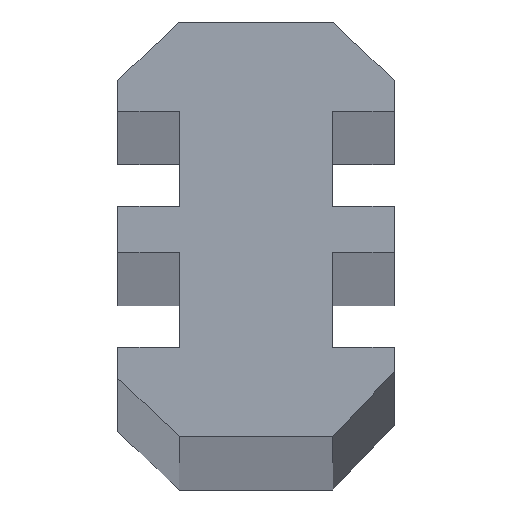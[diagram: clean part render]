
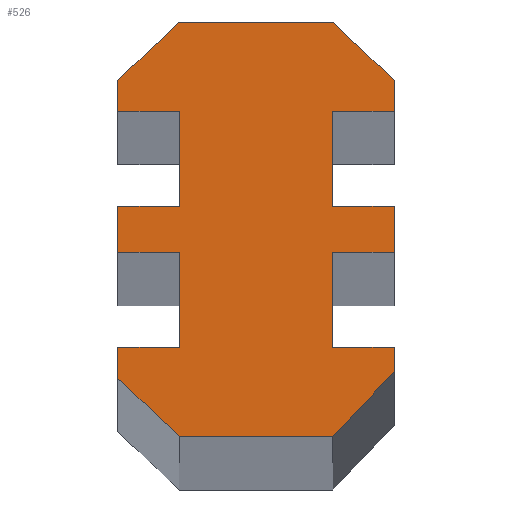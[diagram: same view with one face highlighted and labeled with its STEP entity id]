
A CAD part, top view. The second image highlights one B-rep face of the part: STEP entity #526.
In plain terms, the highlighted planar face has unit normal (0, 0, 1).
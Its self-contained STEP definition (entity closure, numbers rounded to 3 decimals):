
#40=FACE_OUTER_BOUND('',#66,.T.);
#66=EDGE_LOOP('',(#451,#452,#453,#454,#455,#456,#457,#458,#459,#460,#461,
#462,#463,#464,#465,#466,#467,#468,#469,#470,#471,#472,#473,#474));
#92=LINE('',#753,#164);
#94=LINE('',#757,#166);
#96=LINE('',#761,#168);
#98=LINE('',#765,#170);
#100=LINE('',#769,#172);
#102=LINE('',#773,#174);
#104=LINE('',#777,#176);
#106=LINE('',#781,#178);
#108=LINE('',#785,#180);
#110=LINE('',#789,#182);
#112=LINE('',#793,#184);
#114=LINE('',#797,#186);
#116=LINE('',#801,#188);
#118=LINE('',#805,#190);
#120=LINE('',#809,#192);
#122=LINE('',#813,#194);
#124=LINE('',#817,#196);
#126=LINE('',#821,#198);
#128=LINE('',#825,#200);
#130=LINE('',#829,#202);
#132=LINE('',#833,#204);
#134=LINE('',#837,#206);
#136=LINE('',#841,#208);
#138=LINE('',#844,#210);
#164=VECTOR('',#604,10.);
#166=VECTOR('',#608,10.);
#168=VECTOR('',#612,10.);
#170=VECTOR('',#616,10.);
#172=VECTOR('',#620,10.);
#174=VECTOR('',#624,10.);
#176=VECTOR('',#628,10.);
#178=VECTOR('',#632,10.);
#180=VECTOR('',#636,10.);
#182=VECTOR('',#640,10.);
#184=VECTOR('',#644,10.);
#186=VECTOR('',#648,10.);
#188=VECTOR('',#652,10.);
#190=VECTOR('',#656,10.);
#192=VECTOR('',#660,10.);
#194=VECTOR('',#664,10.);
#196=VECTOR('',#668,10.);
#198=VECTOR('',#672,10.);
#200=VECTOR('',#676,10.);
#202=VECTOR('',#680,10.);
#204=VECTOR('',#684,10.);
#206=VECTOR('',#688,10.);
#208=VECTOR('',#692,10.);
#210=VECTOR('',#696,10.);
#235=VERTEX_POINT('',#750);
#236=VERTEX_POINT('',#752);
#237=VERTEX_POINT('',#756);
#238=VERTEX_POINT('',#760);
#239=VERTEX_POINT('',#764);
#240=VERTEX_POINT('',#768);
#241=VERTEX_POINT('',#772);
#242=VERTEX_POINT('',#776);
#243=VERTEX_POINT('',#780);
#244=VERTEX_POINT('',#784);
#245=VERTEX_POINT('',#788);
#246=VERTEX_POINT('',#792);
#247=VERTEX_POINT('',#796);
#248=VERTEX_POINT('',#800);
#249=VERTEX_POINT('',#804);
#250=VERTEX_POINT('',#808);
#251=VERTEX_POINT('',#812);
#252=VERTEX_POINT('',#816);
#253=VERTEX_POINT('',#820);
#254=VERTEX_POINT('',#824);
#255=VERTEX_POINT('',#828);
#256=VERTEX_POINT('',#832);
#257=VERTEX_POINT('',#836);
#258=VERTEX_POINT('',#840);
#284=EDGE_CURVE('',#236,#235,#92,.T.);
#286=EDGE_CURVE('',#237,#236,#94,.T.);
#288=EDGE_CURVE('',#238,#237,#96,.T.);
#290=EDGE_CURVE('',#239,#238,#98,.T.);
#292=EDGE_CURVE('',#240,#239,#100,.T.);
#294=EDGE_CURVE('',#241,#240,#102,.T.);
#296=EDGE_CURVE('',#242,#241,#104,.T.);
#298=EDGE_CURVE('',#243,#242,#106,.T.);
#300=EDGE_CURVE('',#244,#243,#108,.T.);
#302=EDGE_CURVE('',#245,#244,#110,.T.);
#304=EDGE_CURVE('',#246,#245,#112,.T.);
#306=EDGE_CURVE('',#247,#246,#114,.T.);
#308=EDGE_CURVE('',#248,#247,#116,.T.);
#310=EDGE_CURVE('',#249,#248,#118,.T.);
#312=EDGE_CURVE('',#250,#249,#120,.T.);
#314=EDGE_CURVE('',#251,#250,#122,.T.);
#316=EDGE_CURVE('',#252,#251,#124,.T.);
#318=EDGE_CURVE('',#253,#252,#126,.T.);
#320=EDGE_CURVE('',#254,#253,#128,.T.);
#322=EDGE_CURVE('',#255,#254,#130,.T.);
#324=EDGE_CURVE('',#256,#255,#132,.T.);
#326=EDGE_CURVE('',#257,#256,#134,.T.);
#328=EDGE_CURVE('',#258,#257,#136,.T.);
#330=EDGE_CURVE('',#235,#258,#138,.T.);
#451=ORIENTED_EDGE('',*,*,#330,.T.);
#452=ORIENTED_EDGE('',*,*,#328,.T.);
#453=ORIENTED_EDGE('',*,*,#326,.T.);
#454=ORIENTED_EDGE('',*,*,#324,.T.);
#455=ORIENTED_EDGE('',*,*,#322,.T.);
#456=ORIENTED_EDGE('',*,*,#320,.T.);
#457=ORIENTED_EDGE('',*,*,#318,.T.);
#458=ORIENTED_EDGE('',*,*,#316,.T.);
#459=ORIENTED_EDGE('',*,*,#314,.T.);
#460=ORIENTED_EDGE('',*,*,#312,.T.);
#461=ORIENTED_EDGE('',*,*,#310,.T.);
#462=ORIENTED_EDGE('',*,*,#308,.T.);
#463=ORIENTED_EDGE('',*,*,#306,.T.);
#464=ORIENTED_EDGE('',*,*,#304,.T.);
#465=ORIENTED_EDGE('',*,*,#302,.T.);
#466=ORIENTED_EDGE('',*,*,#300,.T.);
#467=ORIENTED_EDGE('',*,*,#298,.T.);
#468=ORIENTED_EDGE('',*,*,#296,.T.);
#469=ORIENTED_EDGE('',*,*,#294,.T.);
#470=ORIENTED_EDGE('',*,*,#292,.T.);
#471=ORIENTED_EDGE('',*,*,#290,.T.);
#472=ORIENTED_EDGE('',*,*,#288,.T.);
#473=ORIENTED_EDGE('',*,*,#286,.T.);
#474=ORIENTED_EDGE('',*,*,#284,.T.);
#500=PLANE('',#572);
#526=ADVANCED_FACE('',(#40),#500,.T.);
#572=AXIS2_PLACEMENT_3D('',#845,#697,#698);
#604=DIRECTION('',(-1.,0.,0.));
#608=DIRECTION('',(0.,-1.,0.));
#612=DIRECTION('',(1.,0.,0.));
#616=DIRECTION('',(0.,-1.,0.));
#620=DIRECTION('',(-0.725,-0.689,0.));
#624=DIRECTION('',(-1.,0.,0.));
#628=DIRECTION('',(-0.725,0.689,0.));
#632=DIRECTION('',(0.,1.,0.));
#636=DIRECTION('',(1.,0.,0.));
#640=DIRECTION('',(0.,1.,0.));
#644=DIRECTION('',(-1.,0.,0.));
#648=DIRECTION('',(0.,1.,0.));
#652=DIRECTION('',(1.,0.,0.));
#656=DIRECTION('',(0.,1.,0.));
#660=DIRECTION('',(-1.,0.,0.));
#664=DIRECTION('',(0.,1.,0.));
#668=DIRECTION('',(0.689,0.725,0.));
#672=DIRECTION('',(1.,0.,0.));
#676=DIRECTION('',(0.725,-0.689,0.));
#680=DIRECTION('',(0.,-1.,0.));
#684=DIRECTION('',(-1.,0.,0.));
#688=DIRECTION('',(0.,-1.,0.));
#692=DIRECTION('',(1.,0.,0.));
#696=DIRECTION('',(0.,-1.,0.));
#697=DIRECTION('center_axis',(0.,0.,1.));
#698=DIRECTION('ref_axis',(1.,0.,0.));
#750=CARTESIAN_POINT('',(-9.,1.5,1000.));
#752=CARTESIAN_POINT('',(-5.,1.5,1000.));
#753=CARTESIAN_POINT('',(-5.,1.5,1000.));
#756=CARTESIAN_POINT('',(-5.,7.7,1000.));
#757=CARTESIAN_POINT('',(-5.,7.7,1000.));
#760=CARTESIAN_POINT('',(-9.,7.7,1000.));
#761=CARTESIAN_POINT('',(-9.,7.7,1000.));
#764=CARTESIAN_POINT('',(-9.,9.7,1000.));
#765=CARTESIAN_POINT('',(-9.,9.7,1000.));
#768=CARTESIAN_POINT('',(-5.,13.5,1000.));
#769=CARTESIAN_POINT('',(-5.,13.5,1000.));
#772=CARTESIAN_POINT('',(5.,13.5,1000.));
#773=CARTESIAN_POINT('',(5.,13.5,1000.));
#776=CARTESIAN_POINT('',(9.,9.7,1000.));
#777=CARTESIAN_POINT('',(9.,9.7,1000.));
#780=CARTESIAN_POINT('',(9.,7.7,1000.));
#781=CARTESIAN_POINT('',(9.,7.7,1000.));
#784=CARTESIAN_POINT('',(5.,7.7,1000.));
#785=CARTESIAN_POINT('',(5.,7.7,1000.));
#788=CARTESIAN_POINT('',(5.,1.5,1000.));
#789=CARTESIAN_POINT('',(5.,1.5,1000.));
#792=CARTESIAN_POINT('',(9.,1.5,1000.));
#793=CARTESIAN_POINT('',(9.,1.5,1000.));
#796=CARTESIAN_POINT('',(9.,-1.5,1000.));
#797=CARTESIAN_POINT('',(9.,-1.5,1000.));
#800=CARTESIAN_POINT('',(5.,-1.5,1000.));
#801=CARTESIAN_POINT('',(5.,-1.5,1000.));
#804=CARTESIAN_POINT('',(5.,-7.7,1000.));
#805=CARTESIAN_POINT('',(5.,-7.7,1000.));
#808=CARTESIAN_POINT('',(9.,-7.7,1000.));
#809=CARTESIAN_POINT('',(9.,-7.7,1000.));
#812=CARTESIAN_POINT('',(9.,-9.289,1000.));
#813=CARTESIAN_POINT('',(9.,-9.289,1000.));
#816=CARTESIAN_POINT('',(5.,-13.5,1000.));
#817=CARTESIAN_POINT('',(5.,-13.5,1000.));
#820=CARTESIAN_POINT('',(-5.,-13.5,1000.));
#821=CARTESIAN_POINT('',(-5.,-13.5,1000.));
#824=CARTESIAN_POINT('',(-9.,-9.7,1000.));
#825=CARTESIAN_POINT('',(-9.,-9.7,1000.));
#828=CARTESIAN_POINT('',(-9.,-7.7,1000.));
#829=CARTESIAN_POINT('',(-9.,-7.7,1000.));
#832=CARTESIAN_POINT('',(-5.,-7.7,1000.));
#833=CARTESIAN_POINT('',(-5.,-7.7,1000.));
#836=CARTESIAN_POINT('',(-5.,-1.5,1000.));
#837=CARTESIAN_POINT('',(-5.,-1.5,1000.));
#840=CARTESIAN_POINT('',(-9.,-1.5,1000.));
#841=CARTESIAN_POINT('',(-9.,-1.5,1000.));
#844=CARTESIAN_POINT('',(-9.,1.5,1000.));
#845=CARTESIAN_POINT('Origin',(-0.015,0.015,1000.));
